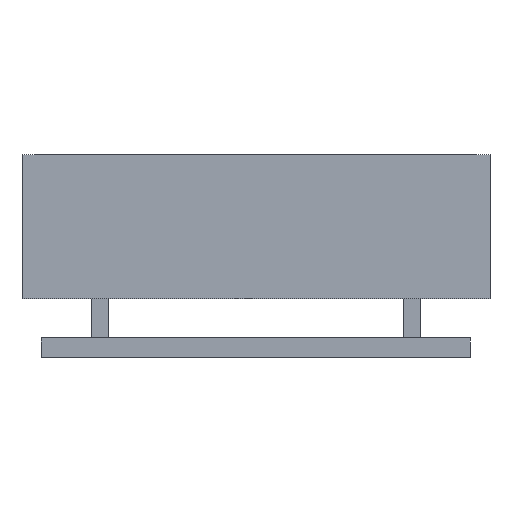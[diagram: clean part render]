
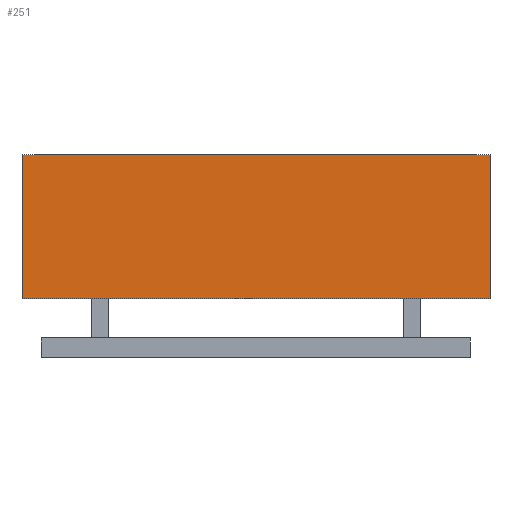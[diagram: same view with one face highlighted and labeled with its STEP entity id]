
A CAD part, front view. The second image highlights one B-rep face of the part: STEP entity #251.
In plain terms, the highlighted planar face has unit normal (0, -1, 0).
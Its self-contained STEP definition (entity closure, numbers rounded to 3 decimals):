
#21 = EDGE_CURVE('',#22,#24,#26,.T.);
#22 = VERTEX_POINT('',#23);
#23 = CARTESIAN_POINT('',(40.,-30.,-4.));
#24 = VERTEX_POINT('',#25);
#25 = CARTESIAN_POINT('',(40.,-30.,3.4));
#26 = SURFACE_CURVE('',#27,(#31,#43),.PCURVE_S1.);
#27 = LINE('',#28,#29);
#28 = CARTESIAN_POINT('',(40.,-30.,-4.));
#29 = VECTOR('',#30,1.);
#30 = DIRECTION('',(0.,0.,1.));
#31 = PCURVE('',#32,#37);
#32 = PLANE('',#33);
#33 = AXIS2_PLACEMENT_3D('',#34,#35,#36);
#34 = CARTESIAN_POINT('',(40.,-30.,-4.));
#35 = DIRECTION('',(1.,0.,0.));
#36 = DIRECTION('',(0.,0.,1.));
#37 = DEFINITIONAL_REPRESENTATION('',(#38),#42);
#38 = LINE('',#39,#40);
#39 = CARTESIAN_POINT('',(0.,0.));
#40 = VECTOR('',#41,1.);
#41 = DIRECTION('',(1.,0.));
#42 = ( GEOMETRIC_REPRESENTATION_CONTEXT(2) 
PARAMETRIC_REPRESENTATION_CONTEXT() REPRESENTATION_CONTEXT('2D SPACE',''
  ) );
#43 = PCURVE('',#44,#49);
#44 = PLANE('',#45);
#45 = AXIS2_PLACEMENT_3D('',#46,#47,#48);
#46 = CARTESIAN_POINT('',(40.,-30.,-4.));
#47 = DIRECTION('',(0.,1.,0.));
#48 = DIRECTION('',(0.,0.,1.));
#49 = DEFINITIONAL_REPRESENTATION('',(#50),#54);
#50 = LINE('',#51,#52);
#51 = CARTESIAN_POINT('',(0.,0.));
#52 = VECTOR('',#53,1.);
#53 = DIRECTION('',(1.,0.));
#54 = ( GEOMETRIC_REPRESENTATION_CONTEXT(2) 
PARAMETRIC_REPRESENTATION_CONTEXT() REPRESENTATION_CONTEXT('2D SPACE',''
  ) );
#72 = PLANE('',#73);
#73 = AXIS2_PLACEMENT_3D('',#74,#75,#76);
#74 = CARTESIAN_POINT('',(40.,-30.,-4.));
#75 = DIRECTION('',(0.,0.,1.));
#76 = DIRECTION('',(1.,0.,0.));
#126 = PLANE('',#127);
#127 = AXIS2_PLACEMENT_3D('',#128,#129,#130);
#128 = CARTESIAN_POINT('',(40.,-30.,3.4));
#129 = DIRECTION('',(0.,0.,1.));
#130 = DIRECTION('',(1.,0.,0.));
#251 = ADVANCED_FACE('',(#252),#44,.F.);
#252 = FACE_BOUND('',#253,.F.);
#253 = EDGE_LOOP('',(#254,#277,#278,#301));
#254 = ORIENTED_EDGE('',*,*,#255,.F.);
#255 = EDGE_CURVE('',#22,#256,#258,.T.);
#256 = VERTEX_POINT('',#257);
#257 = CARTESIAN_POINT('',(64.,-30.,-4.));
#258 = SURFACE_CURVE('',#259,(#263,#270),.PCURVE_S1.);
#259 = LINE('',#260,#261);
#260 = CARTESIAN_POINT('',(40.,-30.,-4.));
#261 = VECTOR('',#262,1.);
#262 = DIRECTION('',(1.,0.,0.));
#263 = PCURVE('',#44,#264);
#264 = DEFINITIONAL_REPRESENTATION('',(#265),#269);
#265 = LINE('',#266,#267);
#266 = CARTESIAN_POINT('',(0.,0.));
#267 = VECTOR('',#268,1.);
#268 = DIRECTION('',(0.,1.));
#269 = ( GEOMETRIC_REPRESENTATION_CONTEXT(2) 
PARAMETRIC_REPRESENTATION_CONTEXT() REPRESENTATION_CONTEXT('2D SPACE',''
  ) );
#270 = PCURVE('',#72,#271);
#271 = DEFINITIONAL_REPRESENTATION('',(#272),#276);
#272 = LINE('',#273,#274);
#273 = CARTESIAN_POINT('',(0.,0.));
#274 = VECTOR('',#275,1.);
#275 = DIRECTION('',(1.,0.));
#276 = ( GEOMETRIC_REPRESENTATION_CONTEXT(2) 
PARAMETRIC_REPRESENTATION_CONTEXT() REPRESENTATION_CONTEXT('2D SPACE',''
  ) );
#277 = ORIENTED_EDGE('',*,*,#21,.T.);
#278 = ORIENTED_EDGE('',*,*,#279,.T.);
#279 = EDGE_CURVE('',#24,#280,#282,.T.);
#280 = VERTEX_POINT('',#281);
#281 = CARTESIAN_POINT('',(64.,-30.,3.4));
#282 = SURFACE_CURVE('',#283,(#287,#294),.PCURVE_S1.);
#283 = LINE('',#284,#285);
#284 = CARTESIAN_POINT('',(40.,-30.,3.4));
#285 = VECTOR('',#286,1.);
#286 = DIRECTION('',(1.,0.,0.));
#287 = PCURVE('',#44,#288);
#288 = DEFINITIONAL_REPRESENTATION('',(#289),#293);
#289 = LINE('',#290,#291);
#290 = CARTESIAN_POINT('',(7.4,0.));
#291 = VECTOR('',#292,1.);
#292 = DIRECTION('',(0.,1.));
#293 = ( GEOMETRIC_REPRESENTATION_CONTEXT(2) 
PARAMETRIC_REPRESENTATION_CONTEXT() REPRESENTATION_CONTEXT('2D SPACE',''
  ) );
#294 = PCURVE('',#126,#295);
#295 = DEFINITIONAL_REPRESENTATION('',(#296),#300);
#296 = LINE('',#297,#298);
#297 = CARTESIAN_POINT('',(0.,0.));
#298 = VECTOR('',#299,1.);
#299 = DIRECTION('',(1.,0.));
#300 = ( GEOMETRIC_REPRESENTATION_CONTEXT(2) 
PARAMETRIC_REPRESENTATION_CONTEXT() REPRESENTATION_CONTEXT('2D SPACE',''
  ) );
#301 = ORIENTED_EDGE('',*,*,#302,.F.);
#302 = EDGE_CURVE('',#256,#280,#303,.T.);
#303 = SURFACE_CURVE('',#304,(#308,#315),.PCURVE_S1.);
#304 = LINE('',#305,#306);
#305 = CARTESIAN_POINT('',(64.,-30.,-4.));
#306 = VECTOR('',#307,1.);
#307 = DIRECTION('',(0.,0.,1.));
#308 = PCURVE('',#44,#309);
#309 = DEFINITIONAL_REPRESENTATION('',(#310),#314);
#310 = LINE('',#311,#312);
#311 = CARTESIAN_POINT('',(0.,24.));
#312 = VECTOR('',#313,1.);
#313 = DIRECTION('',(1.,0.));
#314 = ( GEOMETRIC_REPRESENTATION_CONTEXT(2) 
PARAMETRIC_REPRESENTATION_CONTEXT() REPRESENTATION_CONTEXT('2D SPACE',''
  ) );
#315 = PCURVE('',#316,#321);
#316 = PLANE('',#317);
#317 = AXIS2_PLACEMENT_3D('',#318,#319,#320);
#318 = CARTESIAN_POINT('',(64.,-30.,-4.));
#319 = DIRECTION('',(1.,0.,0.));
#320 = DIRECTION('',(0.,0.,1.));
#321 = DEFINITIONAL_REPRESENTATION('',(#322),#326);
#322 = LINE('',#323,#324);
#323 = CARTESIAN_POINT('',(0.,0.));
#324 = VECTOR('',#325,1.);
#325 = DIRECTION('',(1.,0.));
#326 = ( GEOMETRIC_REPRESENTATION_CONTEXT(2) 
PARAMETRIC_REPRESENTATION_CONTEXT() REPRESENTATION_CONTEXT('2D SPACE',''
  ) );
